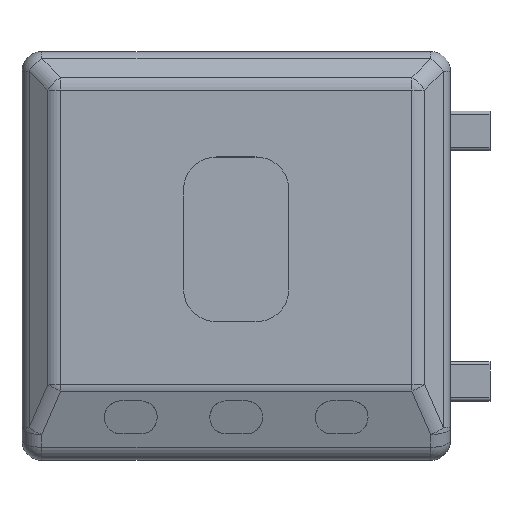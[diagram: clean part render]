
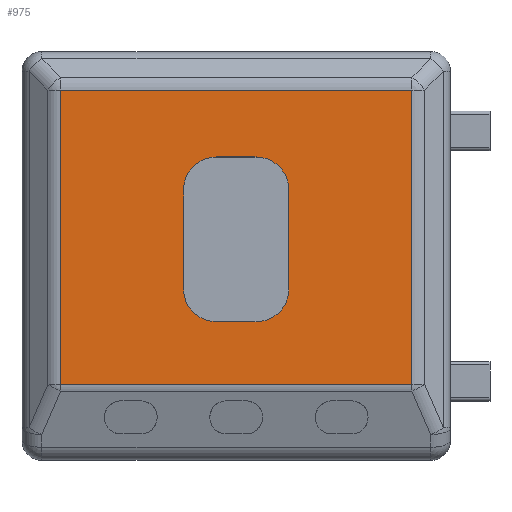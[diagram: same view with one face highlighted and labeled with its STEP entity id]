
A CAD part, top view. The second image highlights one B-rep face of the part: STEP entity #975.
In plain terms, the highlighted planar face has unit normal (0, 0, 1).
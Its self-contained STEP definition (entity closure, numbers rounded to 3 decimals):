
#975=ADVANCED_FACE('',(#1512,#1513),#1331,.T.);
#1331=PLANE('',#6562);
#1512=FACE_BOUND('',#1635,.T.);
#1513=FACE_BOUND('',#1636,.T.);
#1635=EDGE_LOOP('',(#2549,#2550,#2551,#2552));
#1636=EDGE_LOOP('',(#2553,#2554,#2555,#2556,#2557,#2558,#2559,#2560));
#2073=CIRCLE('',#6558,5.);
#2074=CIRCLE('',#6559,5.);
#2075=CIRCLE('',#6560,5.);
#2076=CIRCLE('',#6561,5.);
#2549=ORIENTED_EDGE('',*,*,#4866,.T.);
#2550=ORIENTED_EDGE('',*,*,#4867,.T.);
#2551=ORIENTED_EDGE('',*,*,#4868,.T.);
#2552=ORIENTED_EDGE('',*,*,#4869,.T.);
#2553=ORIENTED_EDGE('',*,*,#4870,.T.);
#2554=ORIENTED_EDGE('',*,*,#4871,.T.);
#2555=ORIENTED_EDGE('',*,*,#4872,.T.);
#2556=ORIENTED_EDGE('',*,*,#4873,.T.);
#2557=ORIENTED_EDGE('',*,*,#4874,.T.);
#2558=ORIENTED_EDGE('',*,*,#4875,.T.);
#2559=ORIENTED_EDGE('',*,*,#4876,.T.);
#2560=ORIENTED_EDGE('',*,*,#4877,.T.);
#4248=VERTEX_POINT('',#9254);
#4249=VERTEX_POINT('',#9255);
#4250=VERTEX_POINT('',#9257);
#4251=VERTEX_POINT('',#9259);
#4252=VERTEX_POINT('',#9262);
#4253=VERTEX_POINT('',#9263);
#4254=VERTEX_POINT('',#9265);
#4255=VERTEX_POINT('',#9267);
#4256=VERTEX_POINT('',#9269);
#4257=VERTEX_POINT('',#9271);
#4258=VERTEX_POINT('',#9273);
#4259=VERTEX_POINT('',#9275);
#4866=EDGE_CURVE('',#4248,#4249,#5660,.T.);
#4867=EDGE_CURVE('',#4249,#4250,#5661,.T.);
#4868=EDGE_CURVE('',#4250,#4251,#5662,.T.);
#4869=EDGE_CURVE('',#4251,#4248,#5663,.T.);
#4870=EDGE_CURVE('',#4252,#4253,#5664,.T.);
#4871=EDGE_CURVE('',#4253,#4254,#2073,.T.);
#4872=EDGE_CURVE('',#4254,#4255,#5665,.T.);
#4873=EDGE_CURVE('',#4255,#4256,#2074,.T.);
#4874=EDGE_CURVE('',#4256,#4257,#5666,.T.);
#4875=EDGE_CURVE('',#4257,#4258,#2075,.T.);
#4876=EDGE_CURVE('',#4258,#4259,#5667,.T.);
#4877=EDGE_CURVE('',#4259,#4252,#2076,.T.);
#5660=LINE('',#9253,#6123);
#5661=LINE('',#9256,#6124);
#5662=LINE('',#9258,#6125);
#5663=LINE('',#9260,#6126);
#5664=LINE('',#9261,#6127);
#5665=LINE('',#9266,#6128);
#5666=LINE('',#9270,#6129);
#5667=LINE('',#9274,#6130);
#6123=VECTOR('',#7446,1.);
#6124=VECTOR('',#7447,1.);
#6125=VECTOR('',#7448,1.);
#6126=VECTOR('',#7449,1.);
#6127=VECTOR('',#7450,1.);
#6128=VECTOR('',#7453,1.);
#6129=VECTOR('',#7456,1.);
#6130=VECTOR('',#7459,1.);
#6558=AXIS2_PLACEMENT_3D('',#9264,#7451,#7452);
#6559=AXIS2_PLACEMENT_3D('',#9268,#7454,#7455);
#6560=AXIS2_PLACEMENT_3D('',#9272,#7457,#7458);
#6561=AXIS2_PLACEMENT_3D('',#9276,#7460,#7461);
#6562=AXIS2_PLACEMENT_3D('',#9277,#7462,#7463);
#7446=DIRECTION('',(-1.,0.,0.));
#7447=DIRECTION('',(0.,-1.,0.));
#7448=DIRECTION('',(1.,0.,0.));
#7449=DIRECTION('',(0.,1.,0.));
#7450=DIRECTION('',(0.,-1.,0.));
#7451=DIRECTION('',(0.,0.,-1.));
#7452=DIRECTION('',(1.,0.,0.));
#7453=DIRECTION('',(-1.,0.,0.));
#7454=DIRECTION('',(0.,0.,-1.));
#7455=DIRECTION('',(1.,0.,0.));
#7456=DIRECTION('',(0.,1.,0.));
#7457=DIRECTION('',(0.,0.,-1.));
#7458=DIRECTION('',(1.,0.,0.));
#7459=DIRECTION('',(1.,0.,0.));
#7460=DIRECTION('',(0.,0.,-1.));
#7461=DIRECTION('',(1.,0.,0.));
#7462=DIRECTION('',(0.,0.,1.));
#7463=DIRECTION('',(1.,0.,0.));
#9253=CARTESIAN_POINT('',(0.,25.141,18.));
#9254=CARTESIAN_POINT('',(26.641,25.141,18.));
#9255=CARTESIAN_POINT('',(-26.641,25.141,18.));
#9256=CARTESIAN_POINT('',(-26.641,0.,18.));
#9257=CARTESIAN_POINT('',(-26.641,-19.481,18.));
#9258=CARTESIAN_POINT('',(0.,-19.481,18.));
#9259=CARTESIAN_POINT('',(26.641,-19.481,18.));
#9260=CARTESIAN_POINT('',(26.641,0.,18.));
#9261=CARTESIAN_POINT('',(8.,0.,18.));
#9262=CARTESIAN_POINT('',(8.,10.,18.));
#9263=CARTESIAN_POINT('',(8.,-5.,18.));
#9264=CARTESIAN_POINT('',(3.,-5.,18.));
#9265=CARTESIAN_POINT('',(3.,-10.,18.));
#9266=CARTESIAN_POINT('',(0.,-10.,18.));
#9267=CARTESIAN_POINT('',(-3.,-10.,18.));
#9268=CARTESIAN_POINT('',(-3.,-5.,18.));
#9269=CARTESIAN_POINT('',(-8.,-5.,18.));
#9270=CARTESIAN_POINT('',(-8.,0.,18.));
#9271=CARTESIAN_POINT('',(-8.,10.,18.));
#9272=CARTESIAN_POINT('',(-3.,10.,18.));
#9273=CARTESIAN_POINT('',(-3.,15.,18.));
#9274=CARTESIAN_POINT('',(0.,15.,18.));
#9275=CARTESIAN_POINT('',(3.,15.,18.));
#9276=CARTESIAN_POINT('',(3.,10.,18.));
#9277=CARTESIAN_POINT('',(0.,0.,18.));
